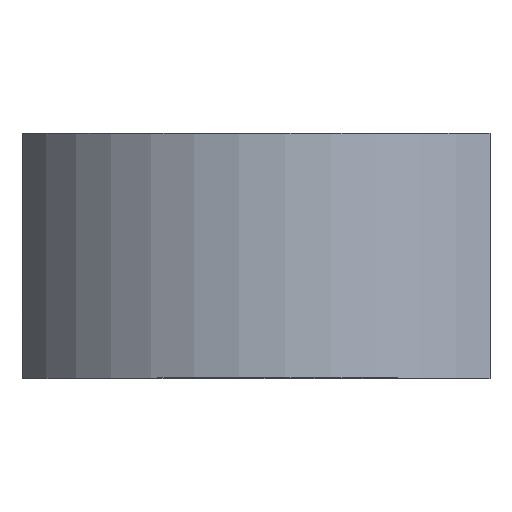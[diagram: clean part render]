
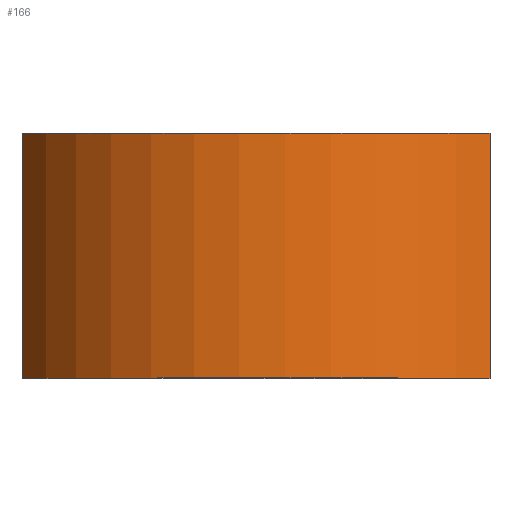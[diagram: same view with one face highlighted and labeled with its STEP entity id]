
A CAD part, top view. The second image highlights one B-rep face of the part: STEP entity #166.
In plain terms, the highlighted cylindrical face has radius 39.131 mm (diameter 78.262 mm), a partial arc.
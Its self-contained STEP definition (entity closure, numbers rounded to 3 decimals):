
#26=FACE_OUTER_BOUND('',#36,.T.);
#36=EDGE_LOOP('',(#135,#136,#137,#138));
#51=LINE('',#313,#64);
#52=LINE('',#317,#65);
#64=VECTOR('',#228,10.);
#65=VECTOR('',#233,10.);
#72=CIRCLE('',#189,39.131);
#75=CIRCLE('',#195,39.131);
#83=VERTEX_POINT('',#297);
#84=VERTEX_POINT('',#299);
#88=VERTEX_POINT('',#311);
#89=VERTEX_POINT('',#315);
#99=EDGE_CURVE('',#83,#84,#72,.T.);
#106=EDGE_CURVE('',#83,#88,#51,.T.);
#107=EDGE_CURVE('',#89,#88,#75,.T.);
#108=EDGE_CURVE('',#84,#89,#52,.T.);
#135=ORIENTED_EDGE('',*,*,#106,.T.);
#136=ORIENTED_EDGE('',*,*,#107,.F.);
#137=ORIENTED_EDGE('',*,*,#108,.F.);
#138=ORIENTED_EDGE('',*,*,#99,.F.);
#160=CYLINDRICAL_SURFACE('',#194,39.131);
#166=ADVANCED_FACE('',(#26),#160,.T.);
#189=AXIS2_PLACEMENT_3D('',#300,#214,#215);
#194=AXIS2_PLACEMENT_3D('',#314,#229,#230);
#195=AXIS2_PLACEMENT_3D('',#316,#231,#232);
#214=DIRECTION('center_axis',(0.,-1.,0.));
#215=DIRECTION('ref_axis',(1.,0.,0.));
#228=DIRECTION('',(0.,1.,0.));
#229=DIRECTION('center_axis',(0.,1.,0.));
#230=DIRECTION('ref_axis',(1.,0.,0.));
#231=DIRECTION('center_axis',(0.,1.,0.));
#232=DIRECTION('ref_axis',(1.,0.,0.));
#233=DIRECTION('',(0.,1.,0.));
#297=CARTESIAN_POINT('',(28.825,-16.7,26.464));
#299=CARTESIAN_POINT('',(-35.,-16.7,17.5));
#300=CARTESIAN_POINT('Origin',(0.,-16.7,0.));
#311=CARTESIAN_POINT('',(28.825,16.7,26.464));
#313=CARTESIAN_POINT('',(28.825,0.,26.464));
#314=CARTESIAN_POINT('Origin',(0.,0.,0.));
#315=CARTESIAN_POINT('',(-35.,16.7,17.5));
#316=CARTESIAN_POINT('Origin',(0.,16.7,0.));
#317=CARTESIAN_POINT('',(-35.,0.,17.5));
